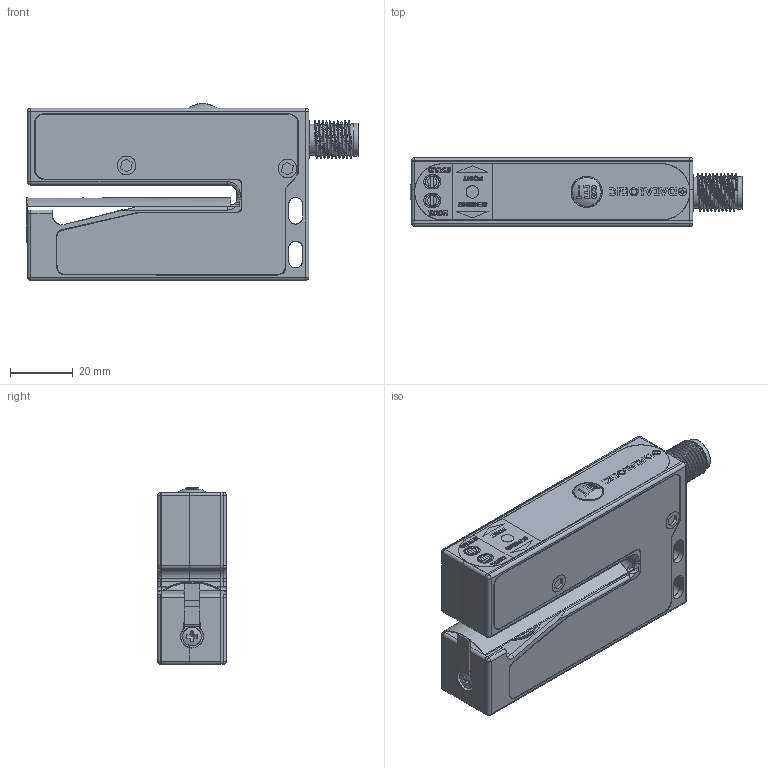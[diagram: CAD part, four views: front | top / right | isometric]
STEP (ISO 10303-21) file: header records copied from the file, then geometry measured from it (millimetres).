
FILE_DESCRIPTION(/* description */ (''),/* implementation_level */ '2;1');
FILE_NAME(/* name */ 'pluto.stp',/* time_stamp */ '2015-05-21T11:29:08+02:00',/* author */ (''),/* organization */ (''),/* preprocessor_version */ 'ST-DEVELOPER v11',/* originating_system */ 'SIEMENS PLM Software NX 7.5',/* authorisation */ '');
FILE_SCHEMA (('AUTOMOTIVE_DESIGN { 1 0 10303 214 1 1 1 1 }'));
Products named in the file (1): adicB695p0a9
Bounding box: 106.2 x 22 x 56.53 mm (x, y, z)
Surface area: 57602.1 mm2 (no closed solid volume)
Topology: 0 solids, 770 shells, 770 faces, 3639 edges, 3669 vertices
Faces by surface type: plane 497, cylinder 188, bspline 62, sphere 18, cone 5
Full cylindrical faces by diameter (mm): 1 x8, 1.5 x4, 3 x5, 3.2 x1, 4 x1, 6 x1, 7.5 x1, 8 x4, 9 x1, 9.431 x3, 9.625 x1, 10 x7, 10.5 x1, 12 x2, 13 x10, 13.5 x2, 15 x4, 17 x2
Entity records: 57320 total; most frequent: CARTESIAN_POINT 25896, DIRECTION 4121, VERTEX_POINT 3388, ORIENTED_EDGE 3375, EDGE_CURVE 3375, LINE 1871, VECTOR 1871, AXIS2_PLACEMENT_3D 1125
